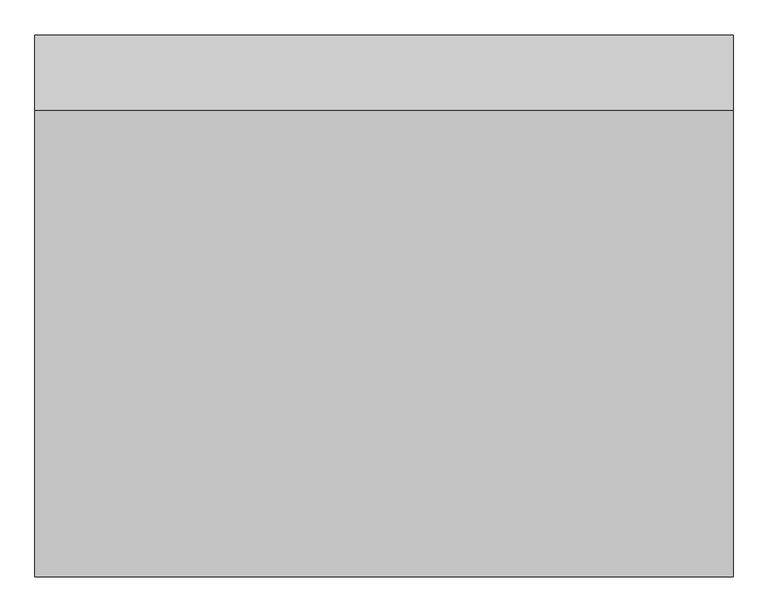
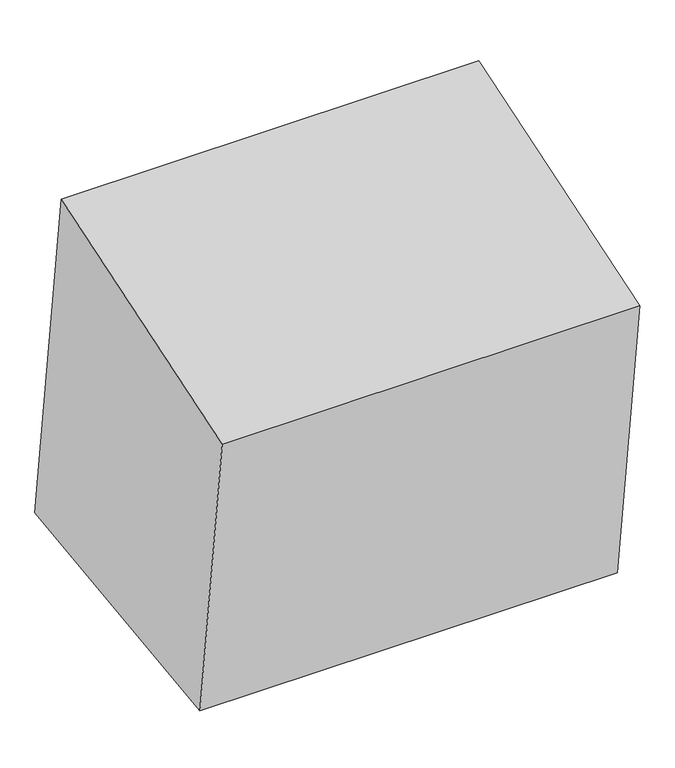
"""IFC4 building model written with IfcOpenShell, lengths in millimetres: proxy geometry, Excavation FamilySP : Excavation FamilySP."""

from ifc_helpers import new_model, si_unit, frame, origin, place, context, project, spatial, polyline, outline, extrude, source, transform, mapped, element, save


def generic_models_54ab8fa8(model_context):
    return source(origin(), model_context, "Body", "SweptSolid", [
        extrude(outline(polyline([(-331.4767857, 2622.295865), (0.0, 0.0), (-2086.3173788, -263.7253057), (-2368.281057, 1966.8749035), (-331.4767857, 2622.295865)])), frame((-1524.0, 0.0, 0.0), z_axis=(1.0, 0.0, 0.0), x_axis=(0.0, 1.0, 0.0)), (0.0, 0.0, 1.0), 3048.0),
    ])


if __name__ == "__main__":
    model = new_model("IFC4")
    model_context = context("Model", 3, world=origin())
    ifc_project = project(units=[si_unit("LENGTHUNIT", "METRE", prefix="MILLI")], contexts=[model_context])
    site = spatial("IfcSite", under=ifc_project)
    building = spatial("IfcBuilding", under=site)
    placement = place(None, origin())
    generic_models_shape = generic_models_54ab8fa8(model_context)
    element("IfcBuildingElementProxy", 1, Name="Excavation FamilySP : Excavation FamilySP", ObjectType="Excavation FamilySP : Excavation FamilySP", at=placement, inside=building, context=model_context, shape_type="MappedRepresentation", body=[
        mapped(generic_models_shape, transform((0.0, 0.0, 0.0), x_axis=(1.0, 0.0, 0.0), y_axis=(0.0, 1.0, 0.0), z_axis=(0.0, 0.0, 1.0))),
    ])
    save(model, "model.ifc")
